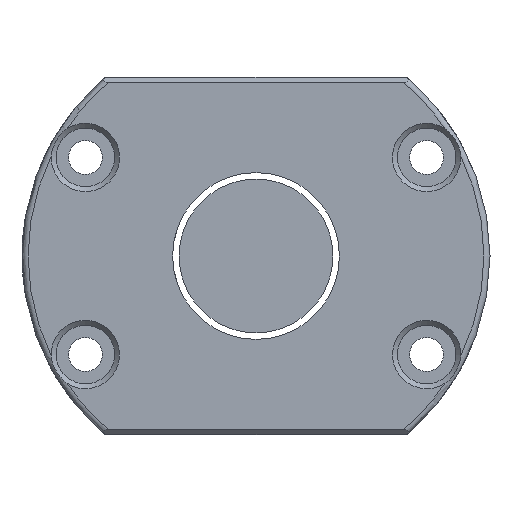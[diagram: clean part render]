
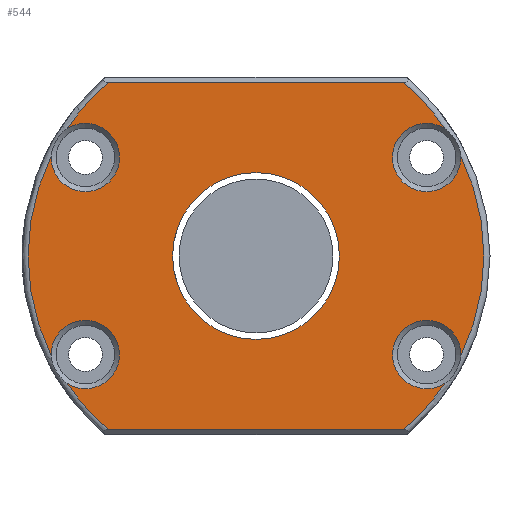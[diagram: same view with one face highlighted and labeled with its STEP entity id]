
A CAD part, left-side view. The second image highlights one B-rep face of the part: STEP entity #544.
In plain terms, the highlighted planar face has unit normal (-1, 0, 0).
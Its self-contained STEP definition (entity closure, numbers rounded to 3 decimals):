
#30 = EDGE_LOOP ( 'NONE', ( #969 ) ) ;
#42 = EDGE_CURVE ( 'NONE', #1667, #1057, #979, .T. ) ;
#45 = CARTESIAN_POINT ( 'NONE',  ( -62., -33.259, 16.213 ) ) ;
#75 = CARTESIAN_POINT ( 'NONE',  ( -62., -22.978, -28.2 ) ) ;
#88 = DIRECTION ( 'NONE',  ( 0., 0., 1. ) ) ;
#124 = ORIENTED_EDGE ( 'NONE', *, *, #905, .T. ) ;
#141 = ORIENTED_EDGE ( 'NONE', *, *, #1991, .T. ) ;
#180 = VERTEX_POINT ( 'NONE', #2023 ) ;
#387 = CIRCLE ( 'NONE', #2504, 37. ) ;
#398 = CARTESIAN_POINT ( 'NONE',  ( -62., 0., 0. ) ) ;
#437 = CARTESIAN_POINT ( 'NONE',  ( -62., 30.67, 20.696 ) ) ;
#457 = AXIS2_PLACEMENT_3D ( 'NONE', #552, #2569, #3105 ) ;
#544 = ADVANCED_FACE ( 'NONE', ( #1142, #661 ), #3218, .T. ) ;
#545 = VECTOR ( 'NONE', #2583, 1000. ) ;
#552 = CARTESIAN_POINT ( 'NONE',  ( -62., 27.713, 16. ) ) ;
#580 = CARTESIAN_POINT ( 'NONE',  ( -62., 0., 0. ) ) ;
#583 = VERTEX_POINT ( 'NONE', #3092 ) ;
#646 = DIRECTION ( 'NONE',  ( 0., 0., 1. ) ) ;
#661 = FACE_BOUND ( 'NONE', #30, .T. ) ;
#675 = CARTESIAN_POINT ( 'NONE',  ( -62., 0., 0. ) ) ;
#714 = CARTESIAN_POINT ( 'NONE',  ( -62., 0., 0. ) ) ;
#726 = VERTEX_POINT ( 'NONE', #1247 ) ;
#743 = CARTESIAN_POINT ( 'NONE',  ( -62., 30.67, -20.696 ) ) ;
#798 = CARTESIAN_POINT ( 'NONE',  ( -62., 33.259, -16.213 ) ) ;
#832 = LINE ( 'NONE', #75, #545 ) ;
#903 = ORIENTED_EDGE ( 'NONE', *, *, #1886, .T. ) ;
#905 = EDGE_CURVE ( 'NONE', #180, #2471, #2453, .T. ) ;
#907 = DIRECTION ( 'NONE',  ( -1., 0., 0. ) ) ;
#919 = CARTESIAN_POINT ( 'NONE',  ( -62., 33.259, 16.213 ) ) ;
#936 = EDGE_CURVE ( 'NONE', #1835, #2454, #1244, .T. ) ;
#937 = DIRECTION ( 'NONE',  ( 1., 0., 0. ) ) ;
#952 = DIRECTION ( 'NONE',  ( -1., 0., 0. ) ) ;
#969 = ORIENTED_EDGE ( 'NONE', *, *, #1693, .T. ) ;
#970 = CARTESIAN_POINT ( 'NONE',  ( -62., -30.67, 20.696 ) ) ;
#976 = CARTESIAN_POINT ( 'NONE',  ( -62., 0., 0. ) ) ;
#979 = CIRCLE ( 'NONE', #2714, 37. ) ;
#990 = VECTOR ( 'NONE', #2040, 1000. ) ;
#1024 = CIRCLE ( 'NONE', #2552, 37. ) ;
#1057 = VERTEX_POINT ( 'NONE', #45 ) ;
#1063 = EDGE_CURVE ( 'NONE', #1694, #726, #387, .T. ) ;
#1088 = CARTESIAN_POINT ( 'NONE',  ( -62., 22.978, 28.2 ) ) ;
#1142 = FACE_OUTER_BOUND ( 'NONE', #2233, .T. ) ;
#1144 = CARTESIAN_POINT ( 'NONE',  ( -62., 0., 0. ) ) ;
#1206 = DIRECTION ( 'NONE',  ( 0., 0., 1. ) ) ;
#1225 = DIRECTION ( 'NONE',  ( -1., 0., 0. ) ) ;
#1244 = CIRCLE ( 'NONE', #1496, 37. ) ;
#1247 = CARTESIAN_POINT ( 'NONE',  ( -62., -23.953, 28.2 ) ) ;
#1252 = CIRCLE ( 'NONE', #457, 5.55 ) ;
#1283 = ORIENTED_EDGE ( 'NONE', *, *, #3243, .T. ) ;
#1291 = AXIS2_PLACEMENT_3D ( 'NONE', #675, #1958, #1206 ) ;
#1305 = AXIS2_PLACEMENT_3D ( 'NONE', #2031, #2600, #1315 ) ;
#1315 = DIRECTION ( 'NONE',  ( 0., 0., 1. ) ) ;
#1323 = VERTEX_POINT ( 'NONE', #919 ) ;
#1364 = CARTESIAN_POINT ( 'NONE',  ( -62., 23.953, -28.2 ) ) ;
#1425 = DIRECTION ( 'NONE',  ( 0., 0., 1. ) ) ;
#1433 = EDGE_CURVE ( 'NONE', #2319, #1835, #832, .T. ) ;
#1451 = CIRCLE ( 'NONE', #1859, 13.55 ) ;
#1496 = AXIS2_PLACEMENT_3D ( 'NONE', #976, #907, #1665 ) ;
#1527 = DIRECTION ( 'NONE',  ( 1., 0., 0. ) ) ;
#1541 = VERTEX_POINT ( 'NONE', #798 ) ;
#1590 = DIRECTION ( 'NONE',  ( 0., 0., 1. ) ) ;
#1598 = DIRECTION ( 'NONE',  ( -1., 0., 0. ) ) ;
#1600 = EDGE_CURVE ( 'NONE', #3125, #2319, #1024, .T. ) ;
#1625 = DIRECTION ( 'NONE',  ( -1., 0., 0. ) ) ;
#1657 = CARTESIAN_POINT ( 'NONE',  ( -62., -33.259, -16.213 ) ) ;
#1665 = DIRECTION ( 'NONE',  ( 0., 0., 1. ) ) ;
#1667 = VERTEX_POINT ( 'NONE', #1657 ) ;
#1671 = AXIS2_PLACEMENT_3D ( 'NONE', #1819, #1527, #2833 ) ;
#1693 = EDGE_CURVE ( 'NONE', #583, #583, #1451, .T. ) ;
#1694 = VERTEX_POINT ( 'NONE', #970 ) ;
#1718 = ORIENTED_EDGE ( 'NONE', *, *, #1063, .T. ) ;
#1813 = LINE ( 'NONE', #1088, #990 ) ;
#1819 = CARTESIAN_POINT ( 'NONE',  ( -62., 27.713, -16. ) ) ;
#1835 = VERTEX_POINT ( 'NONE', #3083 ) ;
#1837 = DIRECTION ( 'NONE',  ( 0., 0., 1. ) ) ;
#1859 = AXIS2_PLACEMENT_3D ( 'NONE', #1144, #937, #1917 ) ;
#1886 = EDGE_CURVE ( 'NONE', #726, #180, #1813, .T. ) ;
#1898 = DIRECTION ( 'NONE',  ( -1., 0., 0. ) ) ;
#1917 = DIRECTION ( 'NONE',  ( 0., 0., -1. ) ) ;
#1958 = DIRECTION ( 'NONE',  ( -1., 0., 0. ) ) ;
#1966 = AXIS2_PLACEMENT_3D ( 'NONE', #2321, #2620, #1837 ) ;
#1970 = ORIENTED_EDGE ( 'NONE', *, *, #936, .T. ) ;
#1991 = EDGE_CURVE ( 'NONE', #1323, #1541, #2942, .T. ) ;
#2023 = CARTESIAN_POINT ( 'NONE',  ( -62., 23.953, 28.2 ) ) ;
#2031 = CARTESIAN_POINT ( 'NONE',  ( -62., -27.713, 16. ) ) ;
#2040 = DIRECTION ( 'NONE',  ( 0., 1., 0. ) ) ;
#2138 = ORIENTED_EDGE ( 'NONE', *, *, #1600, .T. ) ;
#2233 = EDGE_LOOP ( 'NONE', ( #1718, #903, #124, #2686, #141, #2286, #2138, #2970, #1970, #1283, #2980, #3120 ) ) ;
#2286 = ORIENTED_EDGE ( 'NONE', *, *, #2642, .T. ) ;
#2319 = VERTEX_POINT ( 'NONE', #1364 ) ;
#2321 = CARTESIAN_POINT ( 'NONE',  ( -62., -27.713, -16. ) ) ;
#2453 = CIRCLE ( 'NONE', #1291, 37. ) ;
#2454 = VERTEX_POINT ( 'NONE', #3191 ) ;
#2471 = VERTEX_POINT ( 'NONE', #437 ) ;
#2504 = AXIS2_PLACEMENT_3D ( 'NONE', #580, #1625, #1590 ) ;
#2552 = AXIS2_PLACEMENT_3D ( 'NONE', #398, #1898, #646 ) ;
#2559 = EDGE_CURVE ( 'NONE', #2471, #1323, #1252, .T. ) ;
#2569 = DIRECTION ( 'NONE',  ( 1., 0., 0. ) ) ;
#2579 = EDGE_CURVE ( 'NONE', #1057, #1694, #2619, .T. ) ;
#2583 = DIRECTION ( 'NONE',  ( 0., -1., 0. ) ) ;
#2600 = DIRECTION ( 'NONE',  ( 1., 0., 0. ) ) ;
#2619 = CIRCLE ( 'NONE', #1305, 5.55 ) ;
#2620 = DIRECTION ( 'NONE',  ( 1., 0., 0. ) ) ;
#2642 = EDGE_CURVE ( 'NONE', #1541, #3125, #2677, .T. ) ;
#2677 = CIRCLE ( 'NONE', #1671, 5.55 ) ;
#2683 = CARTESIAN_POINT ( 'NONE',  ( -62., 38., 0. ) ) ;
#2686 = ORIENTED_EDGE ( 'NONE', *, *, #2559, .T. ) ;
#2714 = AXIS2_PLACEMENT_3D ( 'NONE', #714, #1225, #3248 ) ;
#2732 = AXIS2_PLACEMENT_3D ( 'NONE', #2856, #1598, #88 ) ;
#2766 = AXIS2_PLACEMENT_3D ( 'NONE', #2683, #952, #1425 ) ;
#2833 = DIRECTION ( 'NONE',  ( 0., 0., 1. ) ) ;
#2856 = CARTESIAN_POINT ( 'NONE',  ( -62., 0., 0. ) ) ;
#2861 = CIRCLE ( 'NONE', #1966, 5.55 ) ;
#2942 = CIRCLE ( 'NONE', #2732, 37. ) ;
#2970 = ORIENTED_EDGE ( 'NONE', *, *, #1433, .T. ) ;
#2980 = ORIENTED_EDGE ( 'NONE', *, *, #42, .T. ) ;
#3083 = CARTESIAN_POINT ( 'NONE',  ( -62., -23.953, -28.2 ) ) ;
#3092 = CARTESIAN_POINT ( 'NONE',  ( -62., 0., -13.55 ) ) ;
#3105 = DIRECTION ( 'NONE',  ( 0., 0., 1. ) ) ;
#3120 = ORIENTED_EDGE ( 'NONE', *, *, #2579, .T. ) ;
#3125 = VERTEX_POINT ( 'NONE', #743 ) ;
#3191 = CARTESIAN_POINT ( 'NONE',  ( -62., -30.67, -20.696 ) ) ;
#3218 = PLANE ( 'NONE',  #2766 ) ;
#3243 = EDGE_CURVE ( 'NONE', #2454, #1667, #2861, .T. ) ;
#3248 = DIRECTION ( 'NONE',  ( 0., 0., 1. ) ) ;
